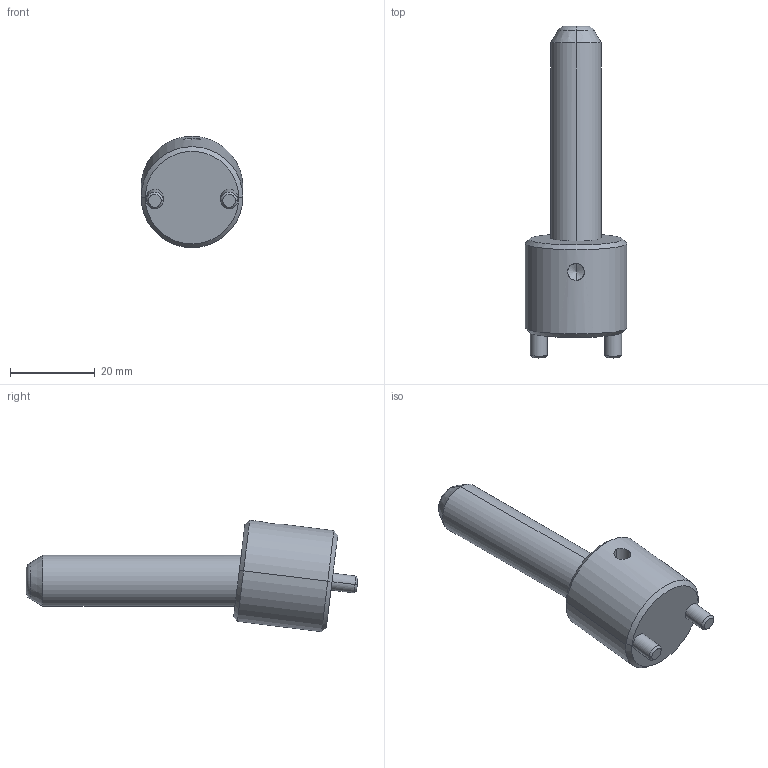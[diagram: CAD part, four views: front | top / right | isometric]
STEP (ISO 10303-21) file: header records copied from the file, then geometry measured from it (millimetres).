
FILE_DESCRIPTION(('CATIA V5 STEP Exchange'),'2;1');
FILE_NAME('C:\Users\Raffaele\Desktop\3D BOLEX\3D FILES CF BOLEX\19-INCLINED ASSEMBLY REF_CI\CI0712050.stp','2019-06-20T14:17:12+00:00',('none'),('none'),'CATIA Version 5 Release 20 GA (IN-10)','CATIA V5 STEP AP203','none');
FILE_SCHEMA(('CONFIG_CONTROL_DESIGN'));
Length unit declared in the file: millimetre
Products named in the file (1): CI0712050
Assembly tree (2 placements, depth 2):
  CI0712050
    #58
    #560
Bounding box: 24 x 78.28 x 26.26 mm (x, y, z)
Volume: 15359.2 mm3; surface area: 6092.9 mm2
Topology: 2 solids, 2 shells, 39 faces, 82 edges, 47 vertices
Faces by surface type: cone 14, cylinder 14, plane 7, torus 4
Entity records: 1440 total; most frequent: CARTESIAN_POINT 581, ORIENTED_EDGE 160, DIRECTION 145, EDGE_CURVE 80, AXIS2_PLACEMENT_3D 72, VERTEX_POINT 47, EDGE_LOOP 43, ADVANCED_FACE 39
